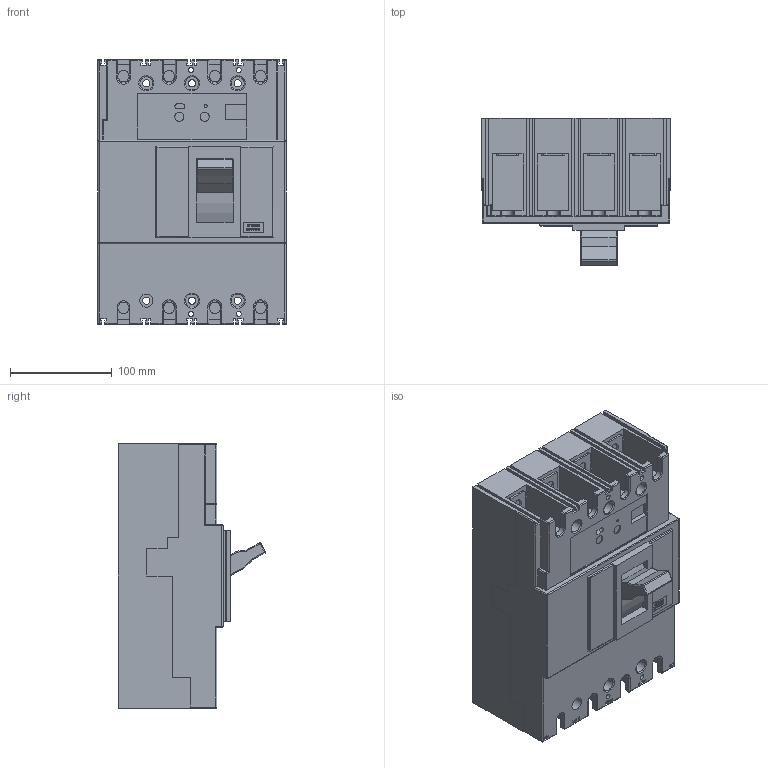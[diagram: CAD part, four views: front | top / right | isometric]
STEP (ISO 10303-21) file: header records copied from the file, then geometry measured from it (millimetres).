
FILE_DESCRIPTION((''),'2;1');
FILE_NAME('S400NJ4250','2012-09-20T',('cmahecha'),(''),'PRO/ENGINEER BY PARAMETRIC TECHNOLOGY CORPORATION, 2010280','PRO/ENGINEER BY PARAMETRIC TECHNOLOGY CORPORATION, 2010280','');
FILE_SCHEMA(('CONFIG_CONTROL_DESIGN'));
Length unit declared in the file: millimetre
Products named in the file (1): S400NJ4250
Bounding box: 185.4 x 144.93 x 260 mm (x, y, z)
Volume: 4346946.3 mm3; surface area: 273287 mm2
Topology: 1 solids, 1 shells, 855 faces, 2312 edges, 1502 vertices
Faces by surface type: plane 639, cylinder 176, sphere 23, torus 17
Entity records: 26640 total; most frequent: CARTESIAN_POINT 4842, ORIENTED_EDGE 4624, DIRECTION 4318, EDGE_CURVE 2312, VECTOR 1958, LINE 1958, VERTEX_POINT 1502, AXIS2_PLACEMENT_3D 1180
